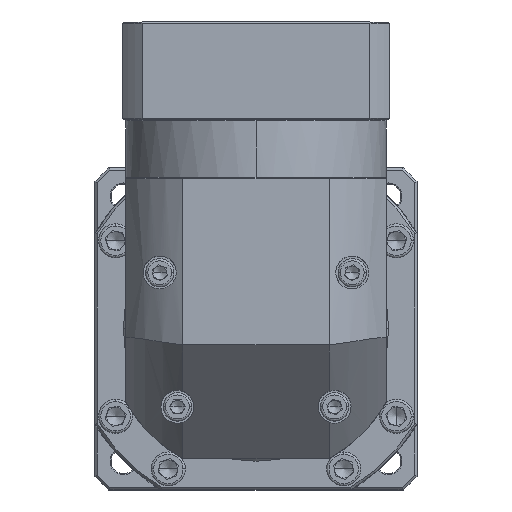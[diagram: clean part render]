
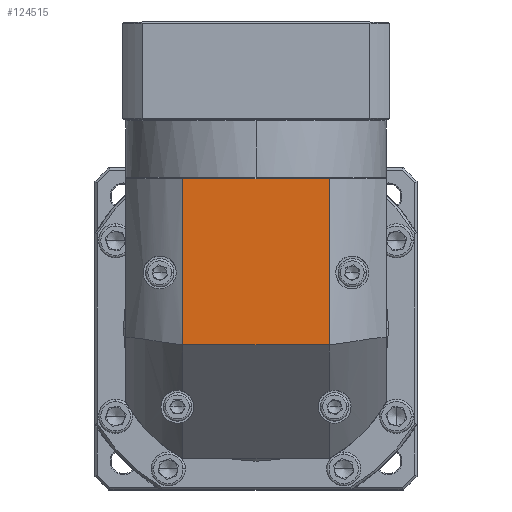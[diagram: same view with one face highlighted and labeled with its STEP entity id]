
A CAD part, top view. The second image highlights one B-rep face of the part: STEP entity #124515.
In plain terms, the highlighted planar face has unit normal (0, 0, 1).
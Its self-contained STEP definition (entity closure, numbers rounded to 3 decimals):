
#778 = EDGE_CURVE ( 'NONE', #142081, #78704, #102215, .T. ) ;
#10083 = CARTESIAN_POINT ( 'NONE',  ( -203.258, 13.002, 114.565 ) ) ;
#15174 = VERTEX_POINT ( 'NONE', #20836 ) ;
#20836 = CARTESIAN_POINT ( 'NONE',  ( -203.258, 136.402, 114.565 ) ) ;
#27025 = CARTESIAN_POINT ( 'NONE',  ( -138.458, 136.402, 114.565 ) ) ;
#33405 = CARTESIAN_POINT ( 'NONE',  ( -138.458, 13.002, 114.565 ) ) ;
#35167 = CARTESIAN_POINT ( 'NONE',  ( -228.358, 63.002, 114.565 ) ) ;
#38284 = DIRECTION ( 'NONE',  ( 1., 0., 0. ) ) ;
#42467 = VECTOR ( 'NONE', #38284, 1000. ) ;
#44575 = VECTOR ( 'NONE', #99652, 1000. ) ;
#46742 = CARTESIAN_POINT ( 'NONE',  ( -138.458, 63.002, 114.565 ) ) ;
#48667 = DIRECTION ( 'NONE',  ( 1., 0., 0. ) ) ;
#48739 = CARTESIAN_POINT ( 'NONE',  ( -228.358, 136.402, 114.565 ) ) ;
#56730 = LINE ( 'NONE', #48739, #42467 ) ;
#57603 = DIRECTION ( 'NONE',  ( -1., 0., 0. ) ) ;
#61063 = CARTESIAN_POINT ( 'NONE',  ( -203.258, 63.002, 114.565 ) ) ;
#66630 = ORIENTED_EDGE ( 'NONE', *, *, #778, .F. ) ;
#74869 = LINE ( 'NONE', #10083, #44575 ) ;
#78704 = VERTEX_POINT ( 'NONE', #61063 ) ;
#82735 = VECTOR ( 'NONE', #57603, 1000. ) ;
#84517 = VECTOR ( 'NONE', #145903, 1000. ) ;
#85033 = EDGE_CURVE ( 'NONE', #78704, #15174, #74869, .T. ) ;
#85629 = EDGE_CURVE ( 'NONE', #15174, #98145, #56730, .T. ) ;
#91235 = AXIS2_PLACEMENT_3D ( 'NONE', #140196, #106290, #48667 ) ;
#93836 = PLANE ( 'NONE',  #91235 ) ;
#95224 = ORIENTED_EDGE ( 'NONE', *, *, #85033, .F. ) ;
#98145 = VERTEX_POINT ( 'NONE', #27025 ) ;
#99652 = DIRECTION ( 'NONE',  ( 0., 1., 0. ) ) ;
#101911 = EDGE_CURVE ( 'NONE', #98145, #142081, #118377, .T. ) ;
#102215 = LINE ( 'NONE', #35167, #82735 ) ;
#106290 = DIRECTION ( 'NONE',  ( 0., 0., -1. ) ) ;
#113491 = FACE_OUTER_BOUND ( 'NONE', #137296, .T. ) ;
#118377 = LINE ( 'NONE', #33405, #84517 ) ;
#124515 = ADVANCED_FACE ( 'NONE', ( #113491 ), #93836, .F. ) ;
#136353 = ORIENTED_EDGE ( 'NONE', *, *, #101911, .F. ) ;
#137296 = EDGE_LOOP ( 'NONE', ( #95224, #66630, #136353, #138538 ) ) ;
#138538 = ORIENTED_EDGE ( 'NONE', *, *, #85629, .F. ) ;
#140196 = CARTESIAN_POINT ( 'NONE',  ( -170.858, 70.502, 114.565 ) ) ;
#142081 = VERTEX_POINT ( 'NONE', #46742 ) ;
#145903 = DIRECTION ( 'NONE',  ( 0., -1., 0. ) ) ;
